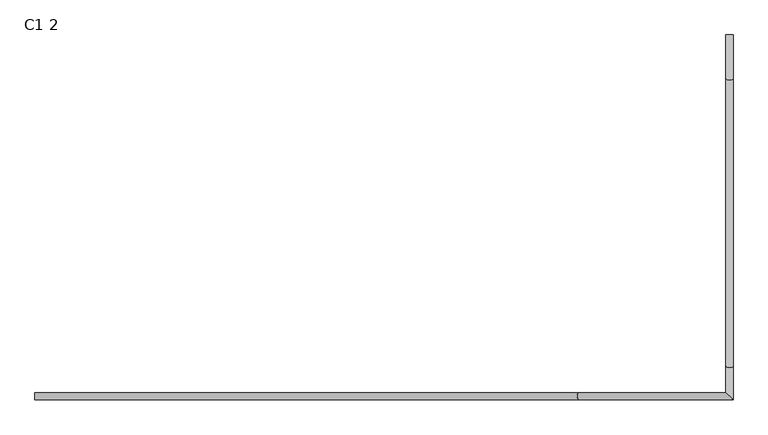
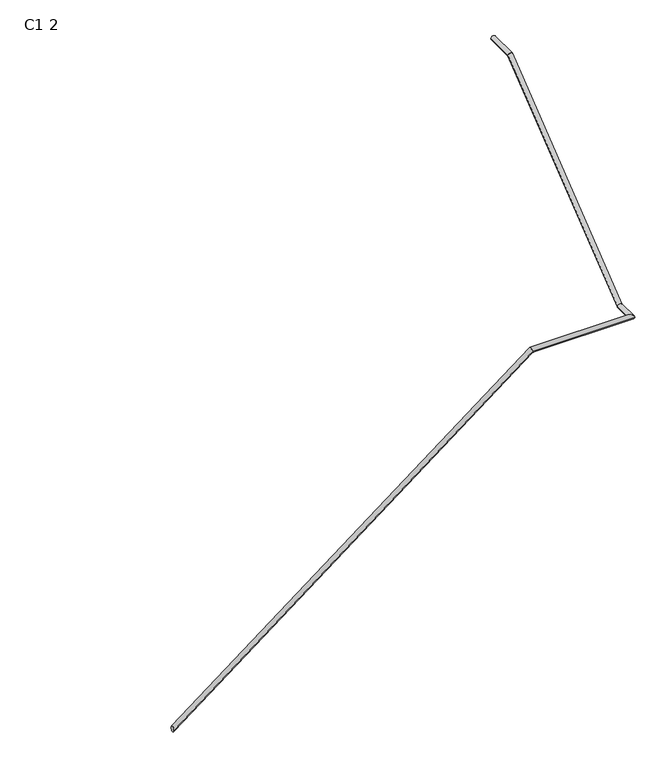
"""IFC4 building model written with IfcOpenShell, lengths in millimetres: railing geometry, C1 2."""

from ifc_helpers import new_model, si_unit, frame, origin, place, context, project, spatial, circle_curve, ellipse_curve, source, transform, mapped, element, save
from ifc_brep_helpers import plane_surface, cylinder_surface, advanced_brep


def c1_2_437304bd(model_context):
    return source(origin(), model_context, "Body", "AdvancedBrep", [
        advanced_brep(
        [(-5697.4033731, 8143.2374199, 4456.1590336), (-5697.4033731, 8193.2374199, 4456.1590336), (-1878.9235836, 8143.2374199, 7383.3245116), (-1878.9235836, 8193.2374199, 7383.3245116), (-792.4033731, 8143.2374199, 7383.3245116), (-842.4033731, 8193.2374199, 7383.3245116), (-792.4033731, 8376.9310039, 7383.3245116), (-842.4033731, 8376.9310039, 7383.3245116), (-792.4033731, 10394.2914245, 8979.375), (-842.4033731, 10394.2914245, 8979.375), (-792.4033731, 10705.5978406, 8979.375), (-842.4033731, 10705.5978406, 8979.375)],
        [
            (0, 1, ellipse_curve(frame((-5697.4033731, 8168.2374199, 4456.1590336), z_axis=(-1.0, 0.0, 0.0), x_axis=(0.0, 0.0, -1.0)), 31.5004264, 25.0)),
            (1, 0, ellipse_curve(frame((-5697.4033731, 8168.2374199, 4456.1590336), z_axis=(-1.0, 0.0, 0.0), x_axis=(0.0, 0.0, -1.0)), 31.5004264, 25.0)),
            (0, 2),
            (2, 3, ellipse_curve(frame((-1878.9235836, 8168.2374199, 7383.3245116), z_axis=(-0.947005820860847, 0.0, -0.3212163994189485), x_axis=(0.3212163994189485, 0.0, -0.9470058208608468)), 26.398993, 25.0)),
            (3, 1),
            (3, 2, ellipse_curve(frame((-1878.9235836, 8168.2374199, 7383.3245116), z_axis=(-0.947005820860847, 0.0, -0.3212163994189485), x_axis=(0.3212163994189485, 0.0, -0.9470058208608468)), 26.398993, 25.0)),
            (2, 4),
            (4, 5, ellipse_curve(frame((-817.4033731, 8168.2374199, 7383.3245116), z_axis=(-0.7071067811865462, -0.7071067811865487, 0.0), x_axis=(-0.7071067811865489, 0.7071067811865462, 0.0)), 35.3553391, 25.0)),
            (5, 3),
            (5, 4, ellipse_curve(frame((-817.4033731, 8168.2374199, 7383.3245116), z_axis=(-0.7071067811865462, -0.7071067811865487, 0.0), x_axis=(-0.7071067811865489, 0.7071067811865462, 0.0)), 35.3553391, 25.0)),
            (4, 6),
            (6, 7, ellipse_curve(frame((-817.4033731, 8376.9310039, 7383.3245116), z_axis=(0.0, -0.9445210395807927, -0.328450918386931), x_axis=(0.0, -0.3284509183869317, 0.9445210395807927)), 26.4684416, 25.0)),
            (7, 5),
            (7, 6, ellipse_curve(frame((-817.4033731, 8376.9310039, 7383.3245116), z_axis=(0.0, -0.9445210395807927, -0.328450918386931), x_axis=(0.0, -0.3284509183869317, 0.9445210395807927)), 26.4684416, 25.0)),
            (6, 8),
            (8, 9, ellipse_curve(frame((-817.4033731, 10394.2914245, 8979.375), z_axis=(0.0, -0.9445210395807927, -0.32845091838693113), x_axis=(0.0, 0.3284509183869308, -0.9445210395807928)), 26.4684416, 25.0)),
            (9, 7),
            (9, 8, ellipse_curve(frame((-817.4033731, 10394.2914245, 8979.375), z_axis=(0.0, -0.9445210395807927, -0.32845091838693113), x_axis=(0.0, 0.3284509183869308, -0.9445210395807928)), 26.4684416, 25.0)),
            (10, 11, circle_curve(frame((-817.4033731, 10705.5978406, 8979.375), z_axis=(0.0, 1.0, 0.0), x_axis=(-1.0, 0.0, 0.0)), 25.0)),
            (11, 10, circle_curve(frame((-817.4033731, 10705.5978406, 8979.375), z_axis=(0.0, 1.0, 0.0), x_axis=(-1.0, 0.0, 0.0)), 25.0)),
            (8, 10),
            (11, 9),
        ],
        [
            plane_surface(frame((-5697.4033731, 8168.2374199, 4487.65946), z_axis=(-1.0, 0.0, 0.0), x_axis=(0.0, 1.0, 0.0))),
            cylinder_surface(frame((-5682.1936831, 8168.2374199, 4467.8184588), z_axis=(-0.7936400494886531, 0.0, -0.608387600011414), x_axis=(0.0, 1.0, 0.0)), 25.0),
            cylinder_surface(frame((-1887.4033731, 8168.2374199, 7383.3245116), z_axis=(-1.0, 0.0, 0.0), x_axis=(0.0, 1.0, 0.0)), 25.0),
            cylinder_surface(frame((-817.4033731, 8168.2374199, 7383.3245116), z_axis=(0.0, -1.0, 0.0), x_axis=(-1.0, 0.0, 0.0)), 25.0),
            cylinder_surface(frame((-817.4033731, 8383.7488601, 7388.7185119), z_axis=(0.0, -0.7842399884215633, -0.6204576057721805), x_axis=(-1.0, 0.0, 0.0)), 25.0),
            plane_surface(frame((-817.4033731, 10705.5978406, 9004.375), z_axis=(0.0, 1.0, 0.0), x_axis=(0.0, 0.0, 1.0))),
            cylinder_surface(frame((-817.4033731, 10385.5978406, 8979.375), z_axis=(0.0, -1.0, 0.0), x_axis=(-1.0, 0.0, 0.0)), 25.0),
        ],
        [
            (0, [[1, 2]]),
            (1, [[-1, 3, 4, 5]]),
            (1, [[-2, -5, 6, -3]]),
            (2, [[-4, 7, 8, 9]]),
            (2, [[-6, -9, 10, -7]]),
            (3, [[-8, 11, 12, 13]]),
            (3, [[-10, -13, 14, -11]]),
            (4, [[-12, 15, 16, 17]]),
            (4, [[-14, -17, 18, -15]]),
            (5, [[19, 20]]),
            (6, [[-16, 21, -20, 22]]),
            (6, [[-18, -22, -19, -21]]),
        ],
    ),
    ])


if __name__ == "__main__":
    model = new_model("IFC4")
    model_context = context("Model", 3, world=origin())
    ifc_project = project(units=[si_unit("LENGTHUNIT", "METRE", prefix="MILLI")], contexts=[model_context])
    site = spatial("IfcSite", under=ifc_project)
    building = spatial("IfcBuilding", under=site)
    placement = place(None, origin())
    c1_2_shape = c1_2_437304bd(model_context)
    element("IfcRailing", 1, ObjectType="C1 2", at=placement, inside=building, context=model_context, shape_type="MappedRepresentation", body=[
        mapped(c1_2_shape, transform((0.0, 0.0, 0.0), x_axis=(1.0, 0.0, 0.0), y_axis=(0.0, 1.0, 0.0), z_axis=(0.0, 0.0, 1.0))),
    ])
    save(model, "model.ifc")
